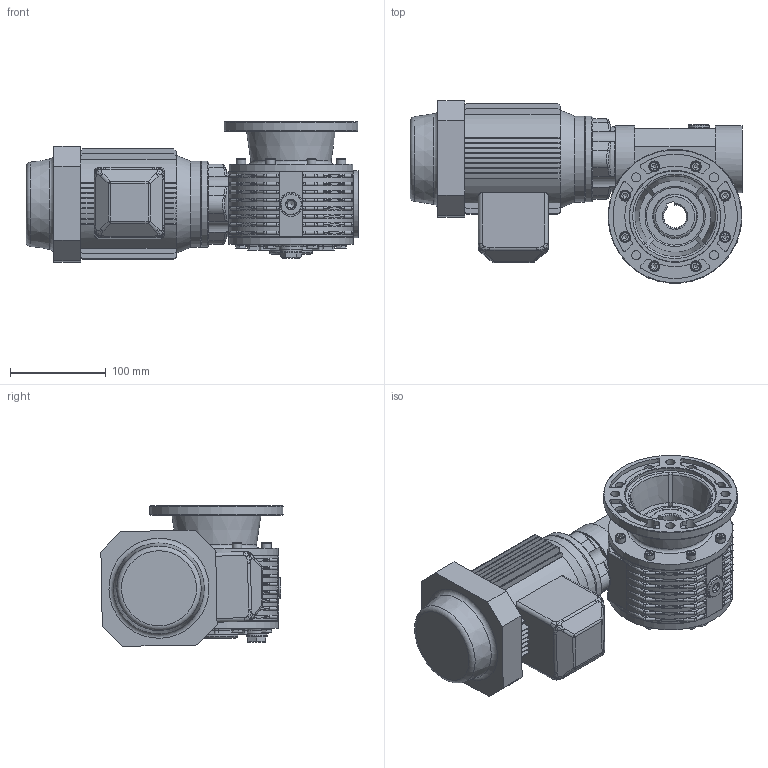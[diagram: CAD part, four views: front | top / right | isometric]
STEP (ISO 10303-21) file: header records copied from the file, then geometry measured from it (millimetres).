
FILE_DESCRIPTION((''),'2;1');
FILE_NAME('Y:\Archivi Inventor\Prog_01\GRAND_20\figuirini\mrv20_sito\63\MRV---20---F1-----63----B14-3D.stp','2013-02-08T15:57:24',('tech3'),(''),'Autodesk Inventor 2013','Autodesk Inventor 2013','');
FILE_SCHEMA(('AUTOMOTIVE_DESIGN { 1 0 10303 214 1 1 1 1 }'));
Length unit declared in the file: millimetre
Products named in the file (19): fig_mrv20_63_b14; mrv20; 0102001; Coperchietto_47x7; Guarnizione 3_8 GAS; Tappo 3_8 GAS_esagn_incsst; mozzo_corona_fig; PARAOLIO 45x60x8; ISO 4017 M6 x 16; 0102029; 0102002-A1_fig; 0102003; Tappo3_8 GAS; ISO 4762 M6 x 16; DIN EN 24017 M6 x 12; 0102028; DIN EN ISO 4762 M6 x 20; 0102006; motori B14 63
Assembly tree (40 placements, depth 3):
  fig_mrv20_63_b14
    mrv20
      0102001
      Coperchietto_47x7
      Guarnizione 3_8 GAS  x3
      Tappo 3_8 GAS_esagn_incsst  x2
      mozzo_corona_fig
      PARAOLIO 45x60x8  x2
      ISO 4017 M6 x 16  x8
      0102029  x2
      0102002-A1_fig
      0102003
      Tappo3_8 GAS
      ISO 4762 M6 x 16  x8
      DIN EN 24017 M6 x 12
      0102028
      DIN EN ISO 4762 M6 x 20  x4
    0102006
    motori B14 63
Bounding box: 347 x 190.44 x 147.06 mm (x, y, z)
Volume: 3405333.3 mm3; surface area: 500903.1 mm2
Topology: 39 solids, 51 shells, 1979 faces, 4835 edges, 2943 vertices
Faces by surface type: plane 854, cylinder 590, bspline 188, torus 183, cone 152, sphere 12
Full cylindrical faces by diameter (mm): 2 x2, 4.134 x4, 4.917 x20, 6 x21, 6.5 x28, 6.75 x4, 7 x12, 8 x2, 8.88 x9, 9.5 x4, 10 x12, 11 x9, 11.5 x8, 13.046 x1, 14.95 x3, 16.3 x3, 16.5 x2, 22 x6, 25 x2, 40 x1, 41.36 x1, 44.4 x2, 45 x4, 47 x4, 49.5 x1, 50.605 x2, 55.5 x2, 60 x6, 69.5 x1, 70 x1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
Entity records: 57521 total; most frequent: CARTESIAN_POINT 19005, DIRECTION 7956, ORIENTED_EDGE 7580, EDGE_CURVE 3790, AXIS2_PLACEMENT_3D 3179, VERTEX_POINT 2453, EDGE_LOOP 2009, CIRCLE 1649
